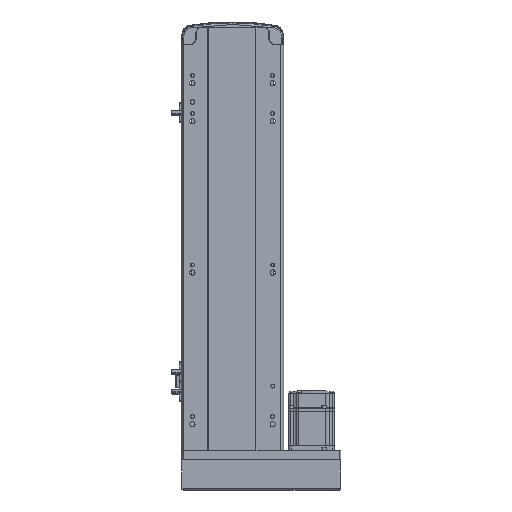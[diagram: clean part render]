
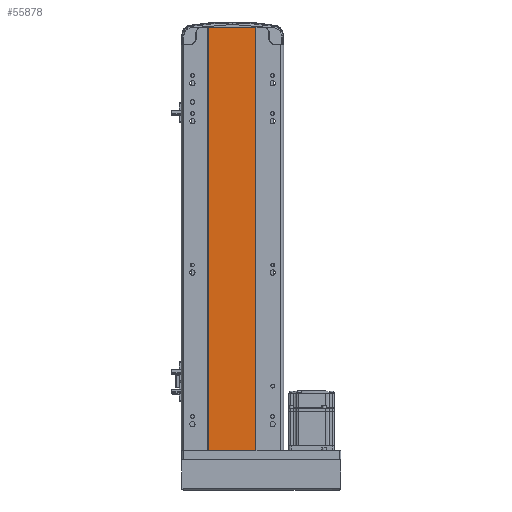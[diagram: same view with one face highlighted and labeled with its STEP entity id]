
A CAD part, front view. The second image highlights one B-rep face of the part: STEP entity #55878.
In plain terms, the highlighted planar face has unit normal (0, -1, 0).
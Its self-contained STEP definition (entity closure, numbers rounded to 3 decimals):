
#332 = LINE ( 'NONE', #39036, #45699 ) ;
#2116 = CARTESIAN_POINT ( 'NONE',  ( -32., 1., 559. ) ) ;
#3491 = VECTOR ( 'NONE', #21032, 1000. ) ;
#4555 = VERTEX_POINT ( 'NONE', #50498 ) ;
#6210 = CARTESIAN_POINT ( 'NONE',  ( 30., 1., 559. ) ) ;
#11126 = DIRECTION ( 'NONE',  ( 0., 1., 0. ) ) ;
#12436 = CARTESIAN_POINT ( 'NONE',  ( -32., 1., 559. ) ) ;
#13641 = ORIENTED_EDGE ( 'NONE', *, *, #15609, .T. ) ;
#15084 = EDGE_CURVE ( 'NONE', #4555, #47753, #44672, .T. ) ;
#15609 = EDGE_CURVE ( 'NONE', #51253, #47753, #47381, .T. ) ;
#17791 = ORIENTED_EDGE ( 'NONE', *, *, #28981, .T. ) ;
#19135 = DIRECTION ( 'NONE',  ( 1., 0., 0. ) ) ;
#21032 = DIRECTION ( 'NONE',  ( 1., 0., 0. ) ) ;
#23978 = DIRECTION ( 'NONE',  ( -1., 0., 0. ) ) ;
#25336 = CARTESIAN_POINT ( 'NONE',  ( -32., 1., 559. ) ) ;
#27669 = FACE_OUTER_BOUND ( 'NONE', #52099, .T. ) ;
#28981 = EDGE_CURVE ( 'NONE', #29342, #51253, #332, .T. ) ;
#29342 = VERTEX_POINT ( 'NONE', #25336 ) ;
#30788 = DIRECTION ( 'NONE',  ( 0., 0., -1. ) ) ;
#30871 = AXIS2_PLACEMENT_3D ( 'NONE', #2116, #11126, #23978 ) ;
#30893 = VECTOR ( 'NONE', #19135, 1000. ) ;
#32958 = VECTOR ( 'NONE', #45742, 1000. ) ;
#38403 = CARTESIAN_POINT ( 'NONE',  ( 30., 1., 0. ) ) ;
#39036 = CARTESIAN_POINT ( 'NONE',  ( -32., 1., 559. ) ) ;
#40534 = LINE ( 'NONE', #12436, #3491 ) ;
#40986 = ORIENTED_EDGE ( 'NONE', *, *, #50800, .F. ) ;
#44672 = LINE ( 'NONE', #6210, #32958 ) ;
#45699 = VECTOR ( 'NONE', #30788, 1000. ) ;
#45742 = DIRECTION ( 'NONE',  ( 0., 0., -1. ) ) ;
#46656 = PLANE ( 'NONE',  #30871 ) ;
#47381 = LINE ( 'NONE', #54515, #30893 ) ;
#47753 = VERTEX_POINT ( 'NONE', #38403 ) ;
#50498 = CARTESIAN_POINT ( 'NONE',  ( 30., 1., 559. ) ) ;
#50800 = EDGE_CURVE ( 'NONE', #29342, #4555, #40534, .T. ) ;
#51253 = VERTEX_POINT ( 'NONE', #56378 ) ;
#52099 = EDGE_LOOP ( 'NONE', ( #13641, #56465, #40986, #17791 ) ) ;
#54515 = CARTESIAN_POINT ( 'NONE',  ( -32., 1., 0. ) ) ;
#55878 = ADVANCED_FACE ( 'NONE', ( #27669 ), #46656, .F. ) ;
#56378 = CARTESIAN_POINT ( 'NONE',  ( -32., 1., 0. ) ) ;
#56465 = ORIENTED_EDGE ( 'NONE', *, *, #15084, .F. ) ;
